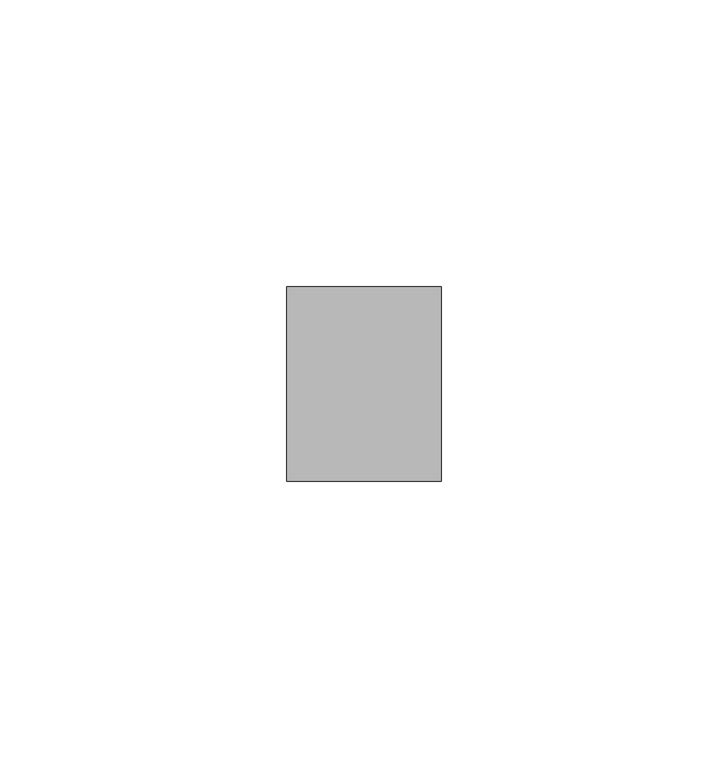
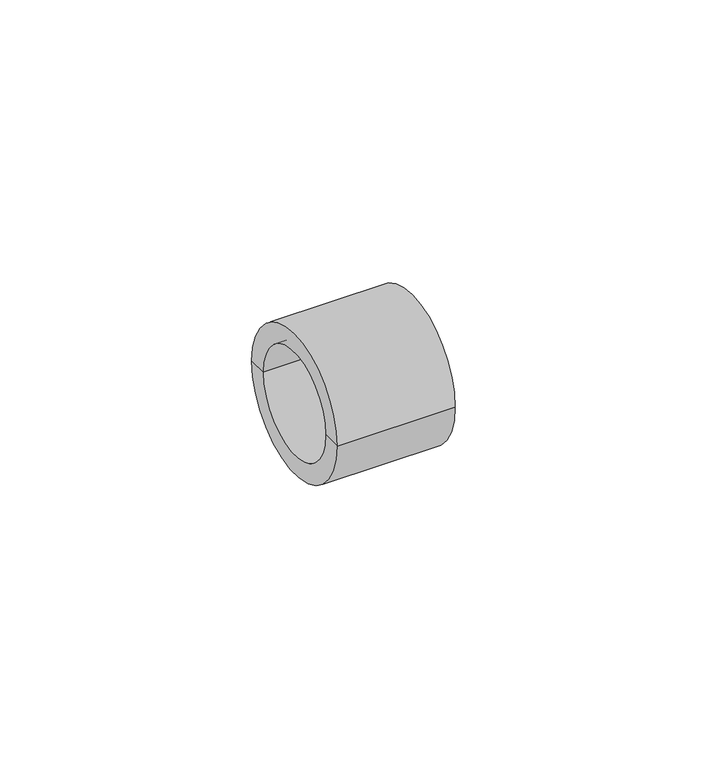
"""IFC4 building model written with IfcOpenShell, lengths in millimetres: pipe fitting geometry, EGB_VASEN_ PPR_Tapon WXR700 : Tapón WXR700."""

from ifc_helpers import new_model, si_unit, frame, origin, place, context, project, spatial, polyline, circle_curve, source, transform, mapped, element, save
from ifc_brep_helpers import plane_surface, cylinder_surface, revolved_surface, advanced_brep


def pipe_fitting_d2933fa0(model_context):
    return source(origin(), model_context, "Body", "AdvancedBrep", [
        advanced_brep(
        [(0.0, -17.0, 0.0), (0.0, 17.0, 0.0), (27.0, 17.0, 0.0), (27.0, -17.0, 0.0), (0.0, -12.5, 0.0), (0.0, 12.5, 0.0), (22.5, -12.5, 0.0), (22.5, 12.5, 0.0), (22.5, 0.0, 0.0), (27.0, 0.0, 0.0)],
        [
            (0, 1, circle_curve(frame((0.0, 0.0, 0.0), z_axis=(1.0, 0.0, 0.0), x_axis=(0.0, 1.0, 0.0)), 17.0)),
            (1, 2),
            (2, 3, circle_curve(frame((27.0, 0.0, 0.0), z_axis=(-1.0, 0.0, 0.0), x_axis=(0.0, 1.0, 0.0)), 17.0)),
            (3, 0),
            (1, 0, circle_curve(frame((0.0, 0.0, 0.0), z_axis=(1.0, 0.0, 0.0), x_axis=(0.0, 1.0, 0.0)), 17.0)),
            (3, 2, circle_curve(frame((27.0, 0.0, 0.0), z_axis=(-1.0, 0.0, 0.0), x_axis=(0.0, 1.0, 0.0)), 17.0)),
            (4, 5, circle_curve(frame((0.0, 0.0, 0.0), z_axis=(1.0, 0.0, 0.0), x_axis=(0.0, 1.0, 0.0)), 12.5)),
            (5, 1),
            (0, 4),
            (5, 4, circle_curve(frame((0.0, 0.0, 0.0), z_axis=(1.0, 0.0, 0.0), x_axis=(0.0, 1.0, 0.0)), 12.5)),
            (6, 7, circle_curve(frame((22.5, 0.0, 0.0), z_axis=(1.0, 0.0, 0.0), x_axis=(0.0, 1.0, 0.0)), 12.5)),
            (7, 5),
            (4, 6),
            (7, 6, circle_curve(frame((22.5, 0.0, 0.0), z_axis=(1.0, 0.0, 0.0), x_axis=(0.0, 1.0, 0.0)), 12.5)),
            (8, 7),
            (6, 8),
            (2, 9),
            (9, 3),
        ],
        [
            cylinder_surface(frame((15.758615, 0.0, 0.0), z_axis=(-1.0, 0.0, 0.0), x_axis=(0.0, 1.0, 0.0)), 17.0),
            plane_surface(frame((0.0, 0.0, 0.0), z_axis=(-1.0, 0.0, 0.0), x_axis=(0.0, 1.0, 0.0))),
            revolved_surface(polyline([(0.0, 12.5, 0.0), (22.5, 12.5, 0.0)]), (15.758615, 0.0, 0.0), (-1.0, 0.0, 0.0)),
            plane_surface(frame((22.5, 0.0, 0.0), z_axis=(-1.0, 0.0, 0.0), x_axis=(0.0, 1.0, 0.0))),
            plane_surface(frame((27.0, 0.0, 0.0), z_axis=(1.0, 0.0, 0.0), x_axis=(0.0, 1.0, 0.0))),
        ],
        [
            (0, [[1, 2, 3, 4]]),
            (0, [[5, -4, 6, -2]]),
            (1, [[7, 8, -1, 9]]),
            (1, [[10, -9, -5, -8]]),
            (2, [[11, 12, -7, 13]]),
            (2, [[14, -13, -10, -12]]),
            (3, [[15, -11, 16]]),
            (3, [[-16, -14, -15]]),
            (4, [[-3, 17, 18]]),
            (4, [[-6, -18, -17]]),
        ],
    ),
    ])


if __name__ == "__main__":
    model = new_model("IFC4")
    model_context = context("Model", 3, world=origin())
    ifc_project = project(units=[si_unit("LENGTHUNIT", "METRE", prefix="MILLI")], contexts=[model_context])
    site = spatial("IfcSite", under=ifc_project)
    building = spatial("IfcBuilding", under=site)
    placement = place(None, origin())
    pipe_fitting_shape = pipe_fitting_d2933fa0(model_context)
    element("IfcPipeFitting", 1, ObjectType="EGB_VASEN_ PPR_Tapon WXR700 : Tapón WXR700", at=placement, inside=building, context=model_context, shape_type="MappedRepresentation", body=[
        mapped(pipe_fitting_shape, transform((0.0, 0.0, 0.0), x_axis=(1.0, 0.0, 0.0), y_axis=(0.0, 1.0, 0.0), z_axis=(0.0, 0.0, 1.0))),
    ])
    save(model, "model.ifc")
